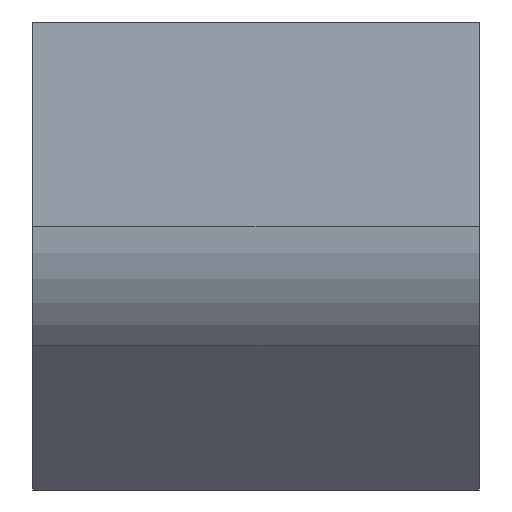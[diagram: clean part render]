
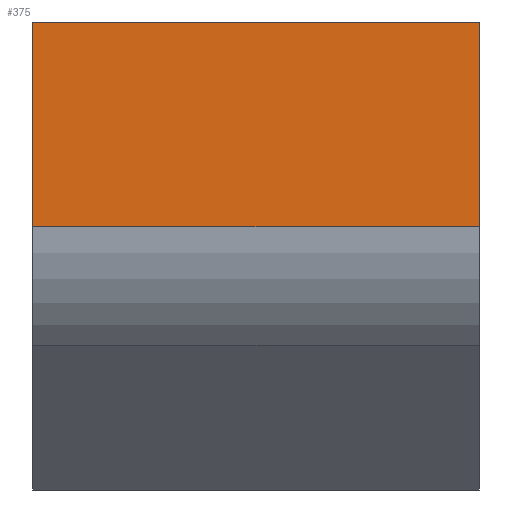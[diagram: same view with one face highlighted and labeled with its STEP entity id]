
A CAD part, front view. The second image highlights one B-rep face of the part: STEP entity #375.
In plain terms, the highlighted planar face has unit normal (0, -1, 0).
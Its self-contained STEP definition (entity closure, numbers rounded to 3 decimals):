
#11 = CARTESIAN_POINT ( 'NONE',  ( -100., -75., -91.777 ) ) ;
#12 = CARTESIAN_POINT ( 'NONE',  ( 100., -75., -91.777 ) ) ;
#73 = EDGE_CURVE ( 'NONE', #1287, #1564, #1329, .T. ) ;
#76 = CARTESIAN_POINT ( 'NONE',  ( 100., -75., -91.777 ) ) ;
#96 = EDGE_CURVE ( 'NONE', #213, #1249, #309, .T. ) ;
#207 = VECTOR ( 'NONE', #434, 1000. ) ;
#213 = VERTEX_POINT ( 'NONE', #1486 ) ;
#308 = VECTOR ( 'NONE', #1047, 1000. ) ;
#309 = LINE ( 'NONE', #11, #889 ) ;
#339 = AXIS2_PLACEMENT_3D ( 'NONE', #12, #1436, #1203 ) ;
#375 = ADVANCED_FACE ( 'NONE', ( #676 ), #930, .F. ) ;
#397 = EDGE_CURVE ( 'NONE', #1564, #1249, #1066, .T. ) ;
#434 = DIRECTION ( 'NONE',  ( 0., 0., -1. ) ) ;
#508 = ORIENTED_EDGE ( 'NONE', *, *, #1138, .T. ) ;
#513 = CARTESIAN_POINT ( 'NONE',  ( 100., -75., 0. ) ) ;
#546 = CARTESIAN_POINT ( 'NONE',  ( 100., -75., -91.777 ) ) ;
#647 = CARTESIAN_POINT ( 'NONE',  ( 100., -75., 0. ) ) ;
#676 = FACE_OUTER_BOUND ( 'NONE', #1164, .T. ) ;
#789 = ORIENTED_EDGE ( 'NONE', *, *, #96, .T. ) ;
#808 = VECTOR ( 'NONE', #1444, 1000. ) ;
#889 = VECTOR ( 'NONE', #1008, 1000. ) ;
#930 = PLANE ( 'NONE',  #339 ) ;
#1008 = DIRECTION ( 'NONE',  ( 0., 0., -1. ) ) ;
#1033 = ORIENTED_EDGE ( 'NONE', *, *, #73, .F. ) ;
#1047 = DIRECTION ( 'NONE',  ( -1., 0., 0. ) ) ;
#1066 = LINE ( 'NONE', #1562, #808 ) ;
#1138 = EDGE_CURVE ( 'NONE', #1287, #213, #1673, .T. ) ;
#1164 = EDGE_LOOP ( 'NONE', ( #789, #1364, #1033, #508 ) ) ;
#1203 = DIRECTION ( 'NONE',  ( 0., 0., 1. ) ) ;
#1249 = VERTEX_POINT ( 'NONE', #1385 ) ;
#1287 = VERTEX_POINT ( 'NONE', #647 ) ;
#1329 = LINE ( 'NONE', #546, #207 ) ;
#1364 = ORIENTED_EDGE ( 'NONE', *, *, #397, .F. ) ;
#1385 = CARTESIAN_POINT ( 'NONE',  ( -100., -75., -91.777 ) ) ;
#1436 = DIRECTION ( 'NONE',  ( 0., 1., 0. ) ) ;
#1444 = DIRECTION ( 'NONE',  ( -1., 0., 0. ) ) ;
#1486 = CARTESIAN_POINT ( 'NONE',  ( -100., -75., 0. ) ) ;
#1562 = CARTESIAN_POINT ( 'NONE',  ( 100., -75., -91.777 ) ) ;
#1564 = VERTEX_POINT ( 'NONE', #76 ) ;
#1673 = LINE ( 'NONE', #513, #308 ) ;
